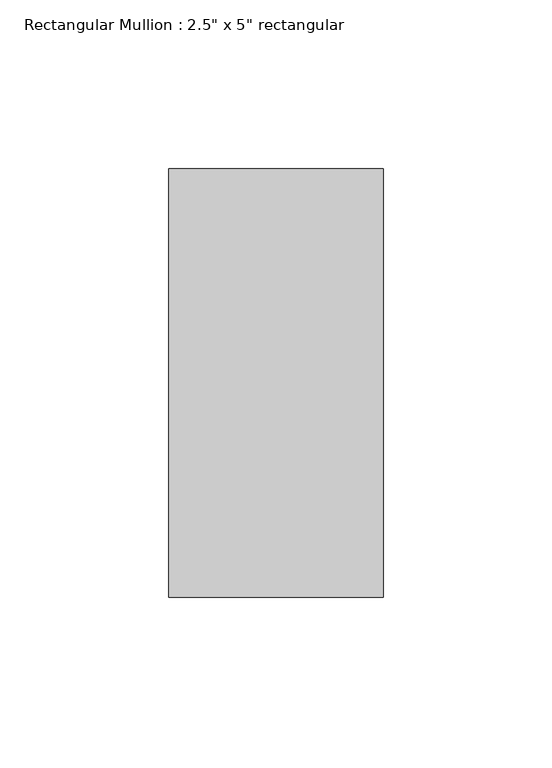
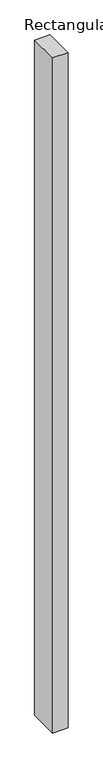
"""IFC4 building model written with IfcOpenShell, lengths in millimetres: member geometry."""

from ifc_helpers import new_model, si_unit, frame, origin, place, context, project, spatial, polyline, outline, extrude, source, transform, mapped, element, save


def member_d457d5cf(model_context):
    return source(origin(), model_context, "Body", "SweptSolid", [
        extrude(outline(polyline([(0.0, 63.5), (0.0, -63.5), (-63.5, -63.5), (-63.5, 63.5), (0.0, 63.5)])), frame((0.0, 0.0, -2921.0), z_axis=(0.0, 0.0, 1.0), x_axis=(1.0, 0.0, 0.0)), (0.0, 0.0, 1.0), 2921.0),
    ])


if __name__ == "__main__":
    model = new_model("IFC4")
    model_context = context("Model", 3, world=origin())
    ifc_project = project(units=[si_unit("LENGTHUNIT", "METRE", prefix="MILLI")], contexts=[model_context])
    site = spatial("IfcSite", under=ifc_project)
    building = spatial("IfcBuilding", under=site)
    placement = place(None, origin())
    member_shape = member_d457d5cf(model_context)
    element("IfcMember", 1, ObjectType="Rectangular Mullion : 2.5\" x 5\" rectangular", at=placement, inside=building, context=model_context, shape_type="MappedRepresentation", body=[
        mapped(member_shape, transform((0.0, 0.0, 0.0), x_axis=(1.0, 0.0, 0.0), y_axis=(0.0, 1.0, 0.0), z_axis=(0.0, 0.0, 1.0))),
    ])
    save(model, "model.ifc")
